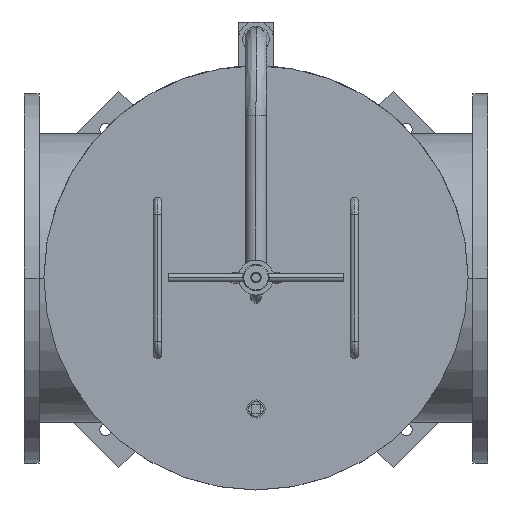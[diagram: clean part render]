
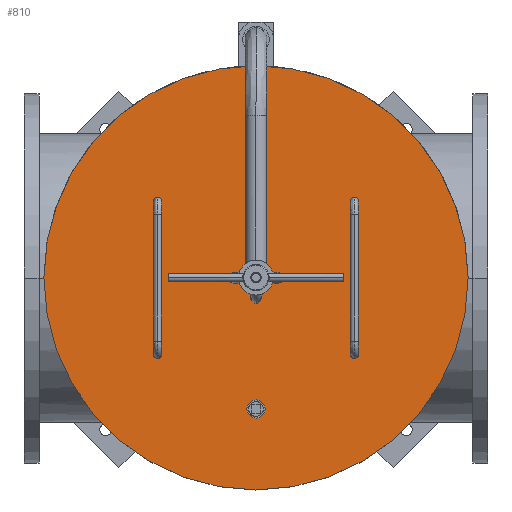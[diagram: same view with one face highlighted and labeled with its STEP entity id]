
A CAD part, top view. The second image highlights one B-rep face of the part: STEP entity #810.
In plain terms, the highlighted planar face has unit normal (0, 0, 1).
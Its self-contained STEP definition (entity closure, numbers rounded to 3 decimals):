
#810=ADVANCED_FACE('',(#2016,#2017,#2018,#2019,#2020,#2021,#2022,#2023),#2015,.F.);
#2015=PLANE('',#6925);
#2016=FACE_OUTER_BOUND('',#6926,.T.);
#2017=FACE_BOUND('',#6927,.T.);
#2018=FACE_BOUND('',#6928,.T.);
#2019=FACE_BOUND('',#6929,.T.);
#2020=FACE_BOUND('',#6930,.T.);
#2021=FACE_BOUND('',#6931,.T.);
#2022=FACE_BOUND('',#6932,.T.);
#2023=FACE_BOUND('',#6933,.T.);
#6922=CARTESIAN_POINT('',(980.,-850.045,699.));
#6923=DIRECTION('',(0.,0.,-1.));
#6924=DIRECTION('',(-1.,0.,0.));
#6925=AXIS2_PLACEMENT_3D('',#6922,#6923,#6924);
#6926=EDGE_LOOP('',(#10004,#10005));
#6927=EDGE_LOOP('',(#10006,#10007));
#6928=EDGE_LOOP('',(#10008,#10009));
#6929=EDGE_LOOP('',(#10010,#10011));
#6930=EDGE_LOOP('',(#10012,#10013));
#6931=EDGE_LOOP('',(#10014,#10015));
#6932=EDGE_LOOP('',(#10016,#10017));
#6933=EDGE_LOOP('',(#10018,#10019));
#10004=ORIENTED_EDGE('',*,*,#12083,.F.);
#10005=ORIENTED_EDGE('',*,*,#12084,.F.);
#10006=ORIENTED_EDGE('',*,*,#12085,.F.);
#10007=ORIENTED_EDGE('',*,*,#12086,.F.);
#10008=ORIENTED_EDGE('',*,*,#12087,.F.);
#10009=ORIENTED_EDGE('',*,*,#12088,.F.);
#10010=ORIENTED_EDGE('',*,*,#12089,.F.);
#10011=ORIENTED_EDGE('',*,*,#12090,.F.);
#10012=ORIENTED_EDGE('',*,*,#12091,.F.);
#10013=ORIENTED_EDGE('',*,*,#12092,.F.);
#10014=ORIENTED_EDGE('',*,*,#12093,.F.);
#10015=ORIENTED_EDGE('',*,*,#12094,.F.);
#10016=ORIENTED_EDGE('',*,*,#12095,.F.);
#10017=ORIENTED_EDGE('',*,*,#12096,.F.);
#10018=ORIENTED_EDGE('',*,*,#12097,.F.);
#10019=ORIENTED_EDGE('',*,*,#12098,.F.);
#12083=EDGE_CURVE('',#14916,#14917,#14918,.T.);
#12084=EDGE_CURVE('',#14917,#14916,#14924,.T.);
#12085=EDGE_CURVE('',#14930,#14931,#14932,.T.);
#12086=EDGE_CURVE('',#14931,#14930,#14938,.T.);
#12087=EDGE_CURVE('',#14944,#14945,#14946,.T.);
#12088=EDGE_CURVE('',#14945,#14944,#14952,.T.);
#12089=EDGE_CURVE('',#14958,#14959,#14960,.T.);
#12090=EDGE_CURVE('',#14959,#14958,#14966,.T.);
#12091=EDGE_CURVE('',#14972,#14973,#14974,.T.);
#12092=EDGE_CURVE('',#14973,#14972,#14980,.T.);
#12093=EDGE_CURVE('',#14986,#14987,#14988,.T.);
#12094=EDGE_CURVE('',#14987,#14986,#14994,.T.);
#12095=EDGE_CURVE('',#15000,#15001,#15002,.T.);
#12096=EDGE_CURVE('',#15001,#15000,#15008,.T.);
#12097=EDGE_CURVE('',#15014,#15015,#15016,.T.);
#12098=EDGE_CURVE('',#15015,#15014,#15022,.T.);
#14916=VERTEX_POINT('',#22325);
#14917=VERTEX_POINT('',#22326);
#14918=CIRCLE('',#22330,485.);
#14924=CIRCLE('',#22334,485.);
#14930=VERTEX_POINT('',#22335);
#14931=VERTEX_POINT('',#22336);
#14932=CIRCLE('',#22340,3.);
#14938=CIRCLE('',#22344,3.);
#14944=VERTEX_POINT('',#22345);
#14945=VERTEX_POINT('',#22346);
#14946=CIRCLE('',#22350,3.);
#14952=CIRCLE('',#22354,3.);
#14958=VERTEX_POINT('',#22355);
#14959=VERTEX_POINT('',#22356);
#14960=CIRCLE('',#22360,3.);
#14966=CIRCLE('',#22364,3.);
#14972=VERTEX_POINT('',#22365);
#14973=VERTEX_POINT('',#22366);
#14974=CIRCLE('',#22370,3.);
#14980=CIRCLE('',#22374,3.);
#14986=VERTEX_POINT('',#22375);
#14987=VERTEX_POINT('',#22376);
#14988=CIRCLE('',#22380,3.);
#14994=CIRCLE('',#22384,3.);
#15000=VERTEX_POINT('',#22385);
#15001=VERTEX_POINT('',#22386);
#15002=CIRCLE('',#22390,3.);
#15008=CIRCLE('',#22394,3.);
#15014=VERTEX_POINT('',#22395);
#15015=VERTEX_POINT('',#22396);
#15016=CIRCLE('',#22400,20.75);
#15022=CIRCLE('',#22404,20.75);
#22325=CARTESIAN_POINT('',(485.,0.,699.));
#22326=CARTESIAN_POINT('',(-485.,0.,699.));
#22327=CARTESIAN_POINT('',(0.,0.,699.));
#22328=DIRECTION('',(0.,0.,-1.));
#22329=DIRECTION('',(-1.,0.,0.));
#22330=AXIS2_PLACEMENT_3D('',#22327,#22328,#22329);
#22331=CARTESIAN_POINT('',(0.,0.,699.));
#22332=DIRECTION('',(0.,0.,-1.));
#22333=DIRECTION('',(-1.,0.,0.));
#22334=AXIS2_PLACEMENT_3D('',#22331,#22332,#22333);
#22335=CARTESIAN_POINT('',(228.,175.,699.));
#22336=CARTESIAN_POINT('',(222.,175.,699.));
#22337=CARTESIAN_POINT('',(225.,175.,699.));
#22338=DIRECTION('',(0.,0.,1.));
#22339=DIRECTION('',(-1.,0.,0.));
#22340=AXIS2_PLACEMENT_3D('',#22337,#22338,#22339);
#22341=CARTESIAN_POINT('',(225.,175.,699.));
#22342=DIRECTION('',(0.,0.,1.));
#22343=DIRECTION('',(-1.,0.,0.));
#22344=AXIS2_PLACEMENT_3D('',#22341,#22342,#22343);
#22345=CARTESIAN_POINT('',(53.,0.,699.));
#22346=CARTESIAN_POINT('',(47.,0.,699.));
#22347=CARTESIAN_POINT('',(50.,0.,699.));
#22348=DIRECTION('',(0.,0.,1.));
#22349=DIRECTION('',(-1.,0.,0.));
#22350=AXIS2_PLACEMENT_3D('',#22347,#22348,#22349);
#22351=CARTESIAN_POINT('',(50.,0.,699.));
#22352=DIRECTION('',(0.,0.,1.));
#22353=DIRECTION('',(-1.,0.,0.));
#22354=AXIS2_PLACEMENT_3D('',#22351,#22352,#22353);
#22355=CARTESIAN_POINT('',(-47.,0.,699.));
#22356=CARTESIAN_POINT('',(-53.,0.,699.));
#22357=CARTESIAN_POINT('',(-50.,0.,699.));
#22358=DIRECTION('',(0.,0.,1.));
#22359=DIRECTION('',(-1.,0.,0.));
#22360=AXIS2_PLACEMENT_3D('',#22357,#22358,#22359);
#22361=CARTESIAN_POINT('',(-50.,0.,699.));
#22362=DIRECTION('',(0.,0.,1.));
#22363=DIRECTION('',(-1.,0.,0.));
#22364=AXIS2_PLACEMENT_3D('',#22361,#22362,#22363);
#22365=CARTESIAN_POINT('',(-222.,-175.,699.));
#22366=CARTESIAN_POINT('',(-228.,-175.,699.));
#22367=CARTESIAN_POINT('',(-225.,-175.,699.));
#22368=DIRECTION('',(0.,0.,1.));
#22369=DIRECTION('',(-1.,0.,0.));
#22370=AXIS2_PLACEMENT_3D('',#22367,#22368,#22369);
#22371=CARTESIAN_POINT('',(-225.,-175.,699.));
#22372=DIRECTION('',(0.,0.,1.));
#22373=DIRECTION('',(-1.,0.,0.));
#22374=AXIS2_PLACEMENT_3D('',#22371,#22372,#22373);
#22375=CARTESIAN_POINT('',(-222.,175.,699.));
#22376=CARTESIAN_POINT('',(-228.,175.,699.));
#22377=CARTESIAN_POINT('',(-225.,175.,699.));
#22378=DIRECTION('',(0.,0.,1.));
#22379=DIRECTION('',(-1.,0.,0.));
#22380=AXIS2_PLACEMENT_3D('',#22377,#22378,#22379);
#22381=CARTESIAN_POINT('',(-225.,175.,699.));
#22382=DIRECTION('',(0.,0.,1.));
#22383=DIRECTION('',(-1.,0.,0.));
#22384=AXIS2_PLACEMENT_3D('',#22381,#22382,#22383);
#22385=CARTESIAN_POINT('',(228.,-175.,699.));
#22386=CARTESIAN_POINT('',(222.,-175.,699.));
#22387=CARTESIAN_POINT('',(225.,-175.,699.));
#22388=DIRECTION('',(0.,0.,1.));
#22389=DIRECTION('',(-1.,0.,0.));
#22390=AXIS2_PLACEMENT_3D('',#22387,#22388,#22389);
#22391=CARTESIAN_POINT('',(225.,-175.,699.));
#22392=DIRECTION('',(0.,0.,1.));
#22393=DIRECTION('',(-1.,0.,0.));
#22394=AXIS2_PLACEMENT_3D('',#22391,#22392,#22393);
#22395=CARTESIAN_POINT('',(-20.75,-300.,699.));
#22396=CARTESIAN_POINT('',(20.75,-300.,699.));
#22397=CARTESIAN_POINT('',(0.,-300.,699.));
#22398=DIRECTION('',(0.,0.,1.));
#22399=DIRECTION('',(1.,0.,0.));
#22400=AXIS2_PLACEMENT_3D('',#22397,#22398,#22399);
#22401=CARTESIAN_POINT('',(0.,-300.,699.));
#22402=DIRECTION('',(0.,0.,1.));
#22403=DIRECTION('',(1.,0.,0.));
#22404=AXIS2_PLACEMENT_3D('',#22401,#22402,#22403);
